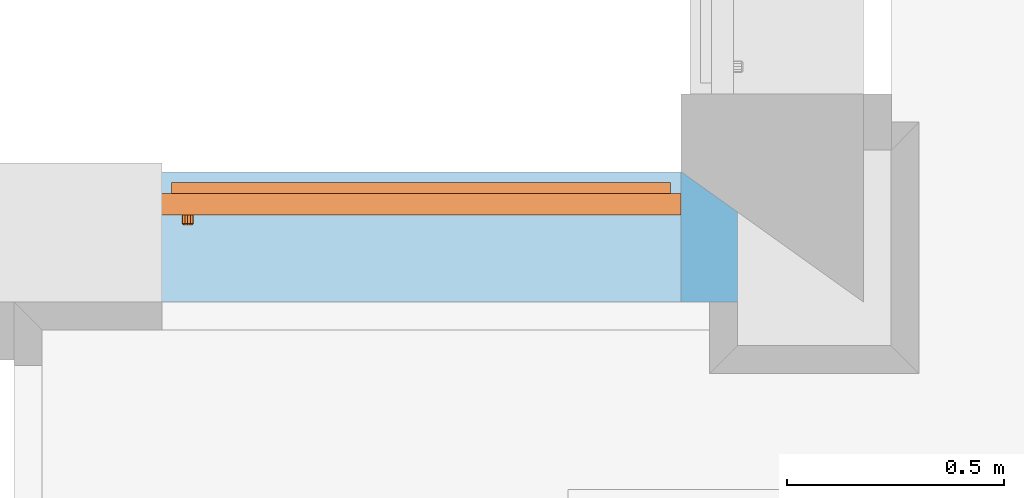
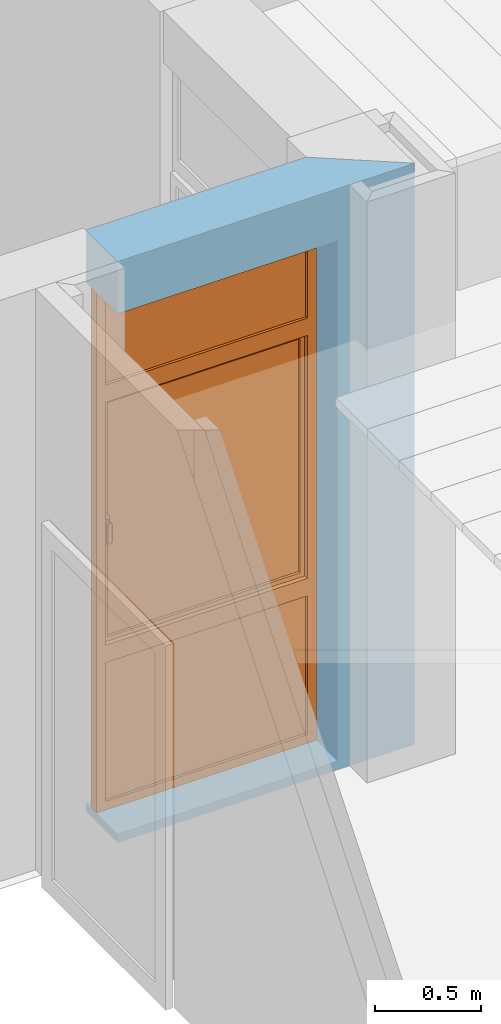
# One storey, part 47 of 60: 1 proxy, 1 opening, plus 1 element that does not belong to this part.
"""IFC2X3 building model written with IfcOpenShell, lengths in millimetres."""

from ifc_helpers import new_model, entity, si_unit, converted_unit, derived_unit, money_unit, direction, frame, origin_with_axes, origin_2d_with_axis, place, context, subcontext, project, spatial, polyline, rectangle, outline, extrude, open_shell, faceted_brep, surface_model, material, layer, layer_set, layer_usage, type_object, element, fill, save


model = new_model("IFC2X3")

# Units and contexts
model_context = context("Model", 3, precision=0.01, world=origin_with_axes(), true_north=direction((0.0, 1.0)))
body_context = subcontext(model_context, "Body", "Model", "MODEL_VIEW")
ifc_project = project(units=[si_unit("LENGTHUNIT", "METRE", prefix="MILLI"), si_unit("AREAUNIT", "SQUARE_METRE"), si_unit("VOLUMEUNIT", "CUBIC_METRE"), converted_unit("PLANEANGLEUNIT", "DEGREE", entity("IfcPlaneAngleMeasure", 0.0174532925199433), si_unit("PLANEANGLEUNIT", "RADIAN"), dimensions=[0, 0, 0, 0, 0, 0, 0]), money_unit("USD"), converted_unit("TIMEUNIT", "Year", entity("IfcTimeMeasure", 31557600.0), si_unit("TIMEUNIT", "SECOND"), dimensions=[0, 0, 1, 0, 0, 0, 0]), si_unit("MASSUNIT", "GRAM", prefix="KILO"), si_unit("THERMODYNAMICTEMPERATUREUNIT", "DEGREE_CELSIUS"), si_unit("LUMINOUSINTENSITYUNIT", "LUMEN"), si_unit("ENERGYUNIT", "JOULE", prefix="MEGA"), derived_unit("THERMALCONDUCTANCEUNIT", [(si_unit("POWERUNIT", "WATT"), 1), (si_unit("LENGTHUNIT", "METRE"), -1), (si_unit("THERMODYNAMICTEMPERATUREUNIT", "KELVIN"), -1)]), derived_unit("SPECIFICHEATCAPACITYUNIT", [(si_unit("ENERGYUNIT", "JOULE"), 1), (si_unit("MASSUNIT", "GRAM", prefix="KILO"), -1), (si_unit("THERMODYNAMICTEMPERATUREUNIT", "KELVIN"), -1)]), derived_unit("MASSDENSITYUNIT", [(si_unit("MASSUNIT", "GRAM", prefix="KILO"), 1), (si_unit("VOLUMEUNIT", "CUBIC_METRE"), -1)])], contexts=[model_context])

# Site, building, storey
site_placement = place(None, origin_with_axes())
site = spatial("IfcSite", under=ifc_project, at=site_placement, Name="Sitio", CompositionType="ELEMENT")
building_placement = place(site_placement, origin_with_axes())
building = spatial("IfcBuilding", under=site, at=building_placement, Name="Construcción", CompositionType="ELEMENT")
storey_placement = place(building_placement, frame((0.0, 0.0, 3650.0), z_axis=(0.0, 0.0, 1.0), x_axis=(1.0, 0.0, 0.0)))
storey = spatial("IfcBuildingStorey", under=building, at=storey_placement, Name="PLANTA 2ª", CompositionType="ELEMENT", Elevation=3650.0)

# Wall, opening, proxy
ifc_material_1 = material(Name="ARQ_AM246_Arrebossat_De_Guix")
ifc_layer_1 = layer(ifc_material_1, 20.0, ventilated="UNKNOWN")
ifc_material_2 = material(Name="ARQ_CE217_Gero")
ifc_layer_2 = layer(ifc_material_2, 110.0, ventilated="UNKNOWN")
ifc_material_3 = material(Name="ARQ_AI031_Aillament_Poliestireno expandido EPS")
ifc_layer_3 = layer(ifc_material_3, 100.0, ventilated="UNKNOWN")
ifc_material_4 = material(Name="ARQ_CE218_Ceramic")
ifc_layer_4 = layer(ifc_material_4, 50.0, ventilated="UNKNOWN")
ifc_layer_5 = layer(ifc_material_1, 20.0, ventilated="UNKNOWN")
ifc_layer_set = layer_set([ifc_layer_1, ifc_layer_2, ifc_layer_3, ifc_layer_4, ifc_layer_5], Name="façana pati CR3 (ampit)")
ifc_layer_usage = layer_usage(ifc_layer_set, "AXIS2", "POSITIVE", -300.0000000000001)
wall_type = type_object("IfcWallType", Name="façana pati CR3 (ampit) 300", PredefinedType="NOTDEFINED")
wall_placement = place(storey_placement, frame((-1681.109004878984, -12338.97582371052, 0.0), z_axis=(0.0, 0.0, 1.0), x_axis=(-1.0, 0.0, 0.0)))
wall = element("IfcWallStandardCase", 1, at=wall_placement, inside=storey, type_object=wall_type, material=ifc_layer_usage, Name="MS-201", context=body_context, shape_type="SweptSolid", body=[
    extrude(outline(polyline([(419.9999999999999, -300.0000000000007), (1620.000000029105, -300.0000000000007), (1620.000000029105, 0.0), (0.0, 0.0), (419.9999999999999, -300.0000000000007)])), origin_with_axes(), (0.0, 0.0, 1.0), 3350.0),
])
opening_placement = place(wall_placement, frame((1020.000000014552, 0.0, 49.99999999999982), z_axis=(0.0, 0.0, 1.0), x_axis=(1.0, 0.0, 0.0)))
opening = element("IfcOpeningElement", 2, at=opening_placement, cuts=wall, Name="F01", context=body_context, shape_type="SweptSolid", body=[
    extrude(rectangle(XDim=1200.000000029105, YDim=3000.0, at=origin_2d_with_axis()), frame((0.0, -250.0, 1500.0), z_axis=(0.0, -1.0, 0.0), x_axis=(-1.0, 0.0, 0.0)), (0.0, 0.0, -1.0), 550.0),
    extrude(rectangle(XDim=1200.000000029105, YDim=3000.0, at=origin_2d_with_axis()), frame((0.0, -250.0, 1500.0), z_axis=(0.0, 1.0, 0.0), x_axis=(-1.0, 0.0, 0.0)), (0.0, 0.0, -1.0), 350.0000000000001),
])
building_element_proxy_type = type_object("IfcBuildingElementProxyType", Name="Ventana Vertical Multi-Faja 27", PredefinedType="NOTDEFINED")
proxy_placement = place(opening_placement, frame((600.0000000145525, 0.0, 0.0), z_axis=(0.0, 0.0, 1.0), x_axis=(-1.0, 0.0, 0.0)))
proxy = element("IfcBuildingElementProxy", 3, at=proxy_placement, inside=storey, type_object=building_element_proxy_type, Name="F01", context=body_context, shape_type="SurfaceModel", body=[
    faceted_brep([(25.00000000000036, 250.0, 925.0000000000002), (50.00000000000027, 250.0, 925.0000000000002), (50.00000000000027, 250.0, 850.0000000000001), (50.00000000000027, 250.0, 50.00000000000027), (0.0, 250.0, 50.00000000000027), (0.0, 250.0, 2950.0), (50.00000000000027, 250.0, 2950.0), (50.00000000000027, 250.0, 2450.0), (50.00000000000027, 250.0, 2375.0), (25.00000000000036, 250.0, 2375.0), (25.00000000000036, 224.9999999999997, 925.0000000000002), (50.00000000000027, 224.9999999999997, 925.0000000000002), (50.00000000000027, 224.9999999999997, 949.9999999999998), (50.00000000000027, 199.9999999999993, 949.9999999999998), (50.00000000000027, 199.9999999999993, 850.0000000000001), (50.00000000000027, 199.9999999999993, 50.00000000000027), (0.0, 199.9999999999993, 50.00000000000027), (0.0, 199.9999999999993, 2950.0), (50.00000000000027, 199.9999999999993, 2950.0), (50.00000000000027, 199.9999999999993, 2450.0), (49.99999999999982, 224.9999999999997, 2375.0), (50.00000000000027, 199.9999999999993, 2350.0), (50.00000000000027, 224.9999999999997, 2350.0), (25.00000000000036, 224.9999999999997, 2375.0)], [[[0, 1, 2, 3, 4, 5, 6, 7, 8, 9]], [[0, 10, 11, 1]], [[11, 12, 13, 14, 2, 1]], [[3, 2, 14, 15]], [[4, 3, 15, 16]], [[5, 4, 16, 17]], [[6, 5, 17, 18]], [[7, 6, 18, 19]], [[20, 8, 7, 19, 21, 22]], [[20, 23, 9, 8]], [[9, 23, 10, 0]], [[22, 12, 11, 10, 23, 20]], [[22, 21, 13, 12]], [[17, 16, 15, 14, 13, 21, 19, 18]]]),
    faceted_brep([(1175.000000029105, 250.0, 925.0000000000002), (1175.000000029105, 250.0, 2375.0), (1150.000000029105, 250.0, 2375.0), (1150.000000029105, 250.0, 2450.0), (1150.000000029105, 250.0, 2950.0), (1200.000000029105, 250.0, 2950.0), (1200.000000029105, 250.0, 50.00000000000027), (1150.000000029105, 250.0, 50.00000000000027), (1150.000000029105, 250.0, 850.0000000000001), (1150.000000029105, 250.0, 925.0000000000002), (1175.000000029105, 224.9999999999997, 925.0000000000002), (1175.000000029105, 224.9999999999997, 2375.0), (1150.000000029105, 224.9999999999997, 2375.0), (1150.000000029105, 224.9999999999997, 2350.0), (1150.000000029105, 199.9999999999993, 2350.0), (1150.000000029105, 199.9999999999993, 2450.0), (1150.000000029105, 199.9999999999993, 2950.0), (1200.000000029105, 199.9999999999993, 2950.0), (1200.000000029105, 199.9999999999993, 50.00000000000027), (1150.000000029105, 199.9999999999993, 50.00000000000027), (1150.000000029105, 199.9999999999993, 850.0000000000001), (1150.000000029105, 224.9999999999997, 925.0000000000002), (1150.000000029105, 199.9999999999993, 949.9999999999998), (1150.000000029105, 224.9999999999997, 949.9999999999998)], [[[0, 1, 2, 3, 4, 5, 6, 7, 8, 9]], [[0, 10, 11, 1]], [[1, 11, 12, 2]], [[12, 13, 14, 15, 3, 2]], [[4, 3, 15, 16]], [[5, 4, 16, 17]], [[6, 5, 17, 18]], [[7, 6, 18, 19]], [[8, 7, 19, 20]], [[21, 9, 8, 20, 22, 23]], [[9, 21, 10, 0]], [[12, 11, 10, 21, 23, 13]], [[23, 22, 14, 13]], [[14, 22, 20, 19, 18, 17, 16, 15]]]),
    faceted_brep([(50.00000000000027, 224.9999999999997, 949.9999999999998), (50.00000000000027, 199.9999999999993, 949.9999999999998), (1150.000000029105, 199.9999999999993, 949.9999999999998), (1150.000000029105, 224.9999999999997, 949.9999999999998), (50.00000000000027, 224.9999999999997, 925.0000000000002), (50.00000000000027, 250.0, 925.0000000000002), (50.00000000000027, 250.0, 850.0000000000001), (50.00000000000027, 199.9999999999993, 850.0000000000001), (1150.000000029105, 199.9999999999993, 850.0000000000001), (1150.000000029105, 224.9999999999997, 925.0000000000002), (1150.000000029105, 250.0, 850.0000000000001), (1150.000000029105, 250.0, 925.0000000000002)], [[[0, 1, 2, 3]], [[4, 5, 6, 7, 1, 0]], [[1, 7, 8, 2]], [[9, 3, 2, 8, 10, 11]], [[9, 4, 0, 3]], [[5, 4, 9, 11]], [[11, 10, 6, 5]], [[6, 10, 8, 7]]]),
    faceted_brep([(50.00000000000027, 250.0, 2375.0), (50.00000000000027, 250.0, 2450.0), (1150.000000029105, 250.0, 2450.0), (1150.000000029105, 250.0, 2375.0), (49.99999999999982, 224.9999999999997, 2375.0), (50.00000000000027, 224.9999999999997, 2350.0), (50.00000000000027, 199.9999999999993, 2350.0), (50.00000000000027, 199.9999999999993, 2450.0), (1150.000000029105, 199.9999999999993, 2450.0), (1150.000000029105, 224.9999999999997, 2375.0), (1150.000000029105, 199.9999999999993, 2350.0), (1150.000000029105, 224.9999999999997, 2350.0)], [[[0, 1, 2, 3]], [[4, 5, 6, 7, 1, 0]], [[2, 1, 7, 8]], [[9, 3, 2, 8, 10, 11]], [[9, 4, 0, 3]], [[11, 5, 4, 9]], [[11, 10, 6, 5]], [[7, 6, 10, 8]]]),
    faceted_brep([(1150.000000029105, 199.9999999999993, 2950.0), (1150.000000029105, 250.0, 2950.0), (1200.000000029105, 250.0, 2950.0), (1200.000000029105, 199.9999999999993, 2950.0), (50.00000000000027, 199.9999999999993, 2950.0), (50.00000000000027, 250.0, 2950.0), (0.0, 250.0, 2950.0), (0.0, 250.0, 3000.0), (1200.000000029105, 250.0, 3000.0), (1200.000000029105, 199.9999999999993, 3000.0), (0.0, 199.9999999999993, 3000.0), (0.0, 199.9999999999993, 2950.0)], [[[0, 1, 2, 3]], [[4, 5, 1, 0]], [[1, 5, 6, 7, 8, 2]], [[3, 2, 8, 9]], [[0, 3, 9, 10, 11, 4]], [[11, 6, 5, 4]], [[10, 7, 6, 11]], [[9, 8, 7, 10]]]),
    faceted_brep([(50.00000000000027, 199.9999999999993, 49.99999999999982), (50.00000000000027, 250.0, 49.99999999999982), (0.0, 250.0, 49.99999999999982), (0.0, 199.9999999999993, 49.99999999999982), (1150.000000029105, 199.9999999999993, 49.99999999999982), (1150.000000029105, 250.0, 49.99999999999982), (1200.000000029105, 250.0, 49.99999999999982), (1200.000000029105, 250.0, 0.0), (0.0, 250.0, 0.0), (0.0, 199.9999999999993, 0.0), (1200.000000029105, 199.9999999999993, 0.0), (1200.000000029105, 199.9999999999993, 49.99999999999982)], [[[0, 1, 2, 3]], [[4, 5, 1, 0]], [[1, 5, 6, 7, 8, 2]], [[3, 2, 8, 9]], [[0, 3, 9, 10, 11, 4]], [[11, 6, 5, 4]], [[10, 7, 6, 11]], [[9, 8, 7, 10]]]),
    surface_model("IfcShellBasedSurfaceModel", [(50.00000000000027, 214.9999999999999, 49.99999999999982), (1150.000000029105, 214.9999999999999, 49.99999999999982), (1150.000000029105, 214.9999999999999, 850.0000000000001), (50.00000000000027, 214.9999999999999, 850.0000000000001)], [open_shell([[[0, 1, 2, 3]]])]),
    surface_model("IfcShellBasedSurfaceModel", [(50.00000000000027, 234.9999999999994, 49.99999999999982), (50.00000000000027, 234.9999999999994, 850.0000000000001), (1150.000000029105, 234.9999999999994, 850.0000000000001), (1150.000000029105, 234.9999999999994, 49.99999999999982)], [open_shell([[[0, 1, 2, 3]]])]),
    faceted_brep([(78.50000000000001, 224.9999999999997, 1677.0), (77.16025403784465, 224.9999999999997, 1682.0), (77.16025403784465, 212.9999999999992, 1682.0), (78.50000000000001, 212.9999999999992, 1677.0), (78.50000000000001, 224.9999999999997, 1623.0), (77.16025403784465, 224.9999999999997, 1618.0), (73.50000000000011, 224.9999999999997, 1614.339745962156), (68.50000000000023, 224.9999999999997, 1613.0), (56.50000000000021, 224.9999999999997, 1613.0), (51.49999999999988, 224.9999999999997, 1614.339745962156), (47.83974596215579, 224.9999999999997, 1618.0), (46.49999999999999, 224.9999999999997, 1623.0), (46.49999999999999, 224.9999999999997, 1677.0), (47.83974596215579, 224.9999999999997, 1682.0), (51.49999999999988, 224.9999999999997, 1685.660254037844), (56.50000000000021, 224.9999999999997, 1687.0), (68.50000000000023, 224.9999999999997, 1687.0), (73.50000000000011, 224.9999999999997, 1685.660254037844), (73.50000000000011, 212.9999999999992, 1685.660254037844), (68.50000000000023, 212.9999999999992, 1687.0), (56.50000000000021, 212.9999999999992, 1687.0), (51.49999999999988, 212.9999999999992, 1685.660254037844), (47.83974596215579, 212.9999999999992, 1682.0), (46.49999999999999, 212.9999999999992, 1677.0), (46.49999999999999, 212.9999999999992, 1623.0), (47.83974596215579, 212.9999999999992, 1618.0), (51.49999999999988, 212.9999999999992, 1614.339745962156), (56.50000000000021, 212.9999999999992, 1613.0), (68.50000000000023, 212.9999999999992, 1613.0), (73.50000000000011, 212.9999999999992, 1614.339745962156), (77.16025403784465, 212.9999999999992, 1618.0), (78.50000000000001, 212.9999999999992, 1623.0)], [[[0, 1, 2, 3]], [[0, 4, 5, 6, 7, 8, 9, 10, 11, 12, 13, 14, 15, 16, 17, 1]], [[1, 17, 18, 2]], [[3, 2, 18, 19, 20, 21, 22, 23, 24, 25, 26, 27, 28, 29, 30, 31]], [[4, 0, 3, 31]], [[5, 4, 31, 30]], [[6, 5, 30, 29]], [[7, 6, 29, 28]], [[8, 7, 28, 27]], [[9, 8, 27, 26]], [[10, 9, 26, 25]], [[11, 10, 25, 24]], [[12, 11, 24, 23]], [[13, 12, 23, 22]], [[14, 13, 22, 21]], [[15, 14, 21, 20]], [[16, 15, 20, 19]], [[17, 16, 19, 18]]]),
    faceted_brep([(62.5, 212.9999999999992, 1663.5), (55.75000000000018, 212.9999999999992, 1661.69134295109), (55.75000000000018, 189.0000000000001, 1661.69134295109), (62.5, 189.0000000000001, 1663.5), (69.25000000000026, 212.9999999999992, 1661.69134295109), (74.19134295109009, 212.9999999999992, 1656.75), (76.00000000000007, 212.9999999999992, 1650.0), (74.19134295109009, 212.9999999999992, 1643.25), (69.25000000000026, 212.9999999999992, 1638.30865704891), (62.5, 212.9999999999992, 1636.499999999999), (55.75000000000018, 212.9999999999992, 1638.30865704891), (50.80865704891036, 212.9999999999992, 1643.25), (49.00000000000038, 212.9999999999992, 1650.0), (50.80865704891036, 212.9999999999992, 1656.75), (50.80865704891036, 189.0000000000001, 1656.75), (49.00000000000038, 189.0000000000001, 1650.0), (50.80865704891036, 189.0000000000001, 1643.25), (55.75000000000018, 189.0000000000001, 1638.30865704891), (62.5, 189.0000000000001, 1636.499999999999), (69.25000000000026, 189.0000000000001, 1638.30865704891), (74.19134295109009, 189.0000000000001, 1643.25), (76.00000000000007, 189.0000000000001, 1650.0), (74.19134295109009, 189.0000000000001, 1656.75), (69.25000000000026, 189.0000000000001, 1661.69134295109)], [[[0, 1, 2, 3]], [[0, 4, 5, 6, 7, 8, 9, 10, 11, 12, 13, 1]], [[1, 13, 14, 2]], [[3, 2, 14, 15, 16, 17, 18, 19, 20, 21, 22, 23]], [[4, 0, 3, 23]], [[5, 4, 23, 22]], [[6, 5, 22, 21]], [[7, 6, 21, 20]], [[8, 7, 20, 19]], [[9, 8, 19, 18]], [[10, 9, 18, 17]], [[11, 10, 17, 16]], [[12, 11, 16, 15]], [[13, 12, 15, 14]]]),
    faceted_brep([(73.99999999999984, 189.0000000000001, 1543.0), (62.5, 189.0000000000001, 1540.0), (51.00000000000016, 189.0000000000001, 1543.0), (49.00000000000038, 189.0000000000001, 1546.0), (49.00000000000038, 189.0000000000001, 1650.0), (50.80865704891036, 189.0000000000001, 1656.75), (55.75000000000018, 189.0000000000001, 1661.69134295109), (62.5, 189.0000000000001, 1663.5), (69.25000000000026, 189.0000000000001, 1661.69134295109), (74.19134295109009, 189.0000000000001, 1656.75), (76.00000000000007, 189.0000000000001, 1650.0), (76.00000000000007, 189.0000000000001, 1546.0), (74.00000006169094, 180.9999999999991, 1543.000000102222), (62.5000000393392, 180.9999999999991, 1539.999999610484), (51.00000001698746, 180.9999999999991, 1543.000000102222), (48.99999968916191, 180.9999999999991, 1545.999999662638), (48.99999968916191, 180.9999999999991, 1649.99999994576), (50.80865700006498, 180.9999999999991, 1656.749999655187), (55.75000032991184, 180.9999999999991, 1661.691342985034), (62.5000000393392, 180.9999999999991, 1663.500000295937), (69.24999974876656, 180.9999999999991, 1661.691342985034), (74.19134307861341, 180.9999999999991, 1656.749999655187), (76.00000038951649, 180.9999999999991, 1649.99999994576), (76.00000038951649, 180.9999999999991, 1545.999999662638), (72.13746253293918, 178.0000004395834, 1545.61451963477), (62.5000000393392, 178.0000004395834, 1543.100398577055), (52.86253754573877, 178.0000004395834, 1545.61451963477), (51.99999924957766, 178.0000004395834, 1546.908326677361), (51.99999924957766, 178.0000004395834, 1649.605042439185), (53.49838296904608, 178.0000004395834, 1655.197085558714), (57.3029144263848, 178.0000004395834, 1659.001617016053), (62.5000000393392, 178.0000004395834, 1660.394172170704), (67.6970856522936, 178.0000004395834, 1659.001617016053), (71.50161710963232, 178.0000004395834, 1655.197085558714), (73.00000082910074, 178.0000004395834, 1649.605042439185), (73.00000082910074, 178.0000004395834, 1546.908326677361)], [[[0, 1, 2, 3, 4, 5, 6, 7, 8, 9, 10, 11]], [[1, 0, 12, 13]], [[2, 1, 13, 14]], [[3, 2, 14, 15]], [[4, 3, 15, 16]], [[5, 4, 16, 17]], [[6, 5, 17, 18]], [[7, 6, 18, 19]], [[8, 7, 19, 20]], [[9, 8, 20, 21]], [[10, 9, 21, 22]], [[11, 10, 22, 23]], [[0, 11, 23, 12]], [[13, 12, 24, 25]], [[14, 13, 25, 26]], [[15, 14, 26, 27]], [[16, 15, 27, 28]], [[17, 16, 28, 29]], [[18, 17, 29, 30]], [[19, 18, 30, 31]], [[20, 19, 31, 32]], [[21, 20, 32, 33]], [[22, 21, 33, 34]], [[23, 22, 34, 35]], [[12, 23, 35, 24]], [[26, 25, 24, 35, 34, 33, 32, 31, 30, 29, 28, 27]]]),
    faceted_brep([(75.00000000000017, 224.9999999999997, 2325.0), (75.00000000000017, 275.0000000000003, 2325.0), (25.00000000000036, 275.0000000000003, 2325.0), (25.00000000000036, 224.9999999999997, 2325.0), (75.00000000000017, 224.9999999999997, 975.0000000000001), (75.00000000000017, 275.0000000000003, 975.0000000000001), (25.00000000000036, 275.0000000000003, 975.0000000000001), (25.00000000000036, 224.9999999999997, 975.0000000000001)], [[[0, 1, 2, 3]], [[4, 5, 1, 0]], [[1, 5, 6, 2]], [[3, 2, 6, 7]], [[0, 3, 7, 4]], [[7, 6, 5, 4]]]),
    faceted_brep([(1125.000000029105, 224.9999999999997, 975.0000000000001), (1125.000000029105, 275.0000000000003, 975.0000000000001), (1175.000000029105, 275.0000000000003, 975.0000000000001), (1175.000000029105, 224.9999999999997, 975.0000000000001), (1125.000000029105, 224.9999999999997, 2325.0), (1125.000000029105, 274.9999999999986, 2325.0), (1175.000000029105, 274.9999999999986, 2325.0), (1175.000000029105, 224.9999999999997, 2325.0)], [[[0, 1, 2, 3]], [[4, 5, 1, 0]], [[1, 5, 6, 2]], [[3, 2, 6, 7]], [[0, 3, 7, 4]], [[7, 6, 5, 4]]]),
    faceted_brep([(1175.000000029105, 224.9999999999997, 925.0000000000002), (1175.000000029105, 275.0000000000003, 925.0000000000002), (1175.000000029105, 275.0000000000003, 975.0000000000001), (1175.000000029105, 224.9999999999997, 975.0000000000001), (25.00000000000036, 224.9999999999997, 925.0000000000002), (25.00000000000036, 275.0000000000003, 925.0000000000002), (25.00000000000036, 275.0000000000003, 975.0000000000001), (75.00000000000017, 275.0000000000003, 975.0000000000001), (1125.000000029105, 275.0000000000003, 975.0000000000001), (1125.000000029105, 224.9999999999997, 975.0000000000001), (75.00000000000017, 224.9999999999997, 975.0000000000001), (25.00000000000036, 224.9999999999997, 975.0000000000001)], [[[0, 1, 2, 3]], [[4, 5, 1, 0]], [[1, 5, 6, 7, 8, 2]], [[3, 2, 8, 9]], [[0, 3, 9, 10, 11, 4]], [[11, 6, 5, 4]], [[10, 7, 6, 11]], [[9, 8, 7, 10]]]),
    faceted_brep([(25.00000000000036, 224.9999999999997, 2375.0), (25.00000000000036, 275.0000000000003, 2375.0), (25.00000000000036, 275.0000000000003, 2325.0), (25.00000000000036, 224.9999999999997, 2325.0), (1175.000000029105, 224.9999999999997, 2375.0), (1175.000000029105, 274.9999999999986, 2375.0), (1175.000000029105, 274.9999999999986, 2325.0), (1125.000000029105, 274.9999999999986, 2325.0), (75.00000000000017, 275.0000000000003, 2325.0), (75.00000000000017, 224.9999999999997, 2325.0), (1125.000000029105, 224.9999999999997, 2325.0), (1175.000000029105, 224.9999999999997, 2325.0)], [[[0, 1, 2, 3]], [[4, 5, 1, 0]], [[1, 5, 6, 7, 8, 2]], [[3, 2, 8, 9]], [[0, 3, 9, 10, 11, 4]], [[11, 6, 5, 4]], [[10, 7, 6, 11]], [[9, 8, 7, 10]]]),
    surface_model("IfcShellBasedSurfaceModel", [(75.00000000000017, 240.0000000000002, 975.0000000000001), (1125.000000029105, 240.0000000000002, 975.0000000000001), (1125.000000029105, 240.0000000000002, 2325.0), (75.00000000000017, 240.0000000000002, 2325.0)], [open_shell([[[0, 1, 2, 3]]])]),
    surface_model("IfcShellBasedSurfaceModel", [(75.00000000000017, 259.9999999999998, 975.0000000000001), (75.00000000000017, 259.9999999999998, 2325.0), (1125.000000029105, 259.9999999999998, 2325.0), (1125.000000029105, 259.9999999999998, 975.0000000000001)], [open_shell([[[0, 1, 2, 3]]])]),
    surface_model("IfcShellBasedSurfaceModel", [(50.00000000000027, 214.9999999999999, 2450.0), (1150.000000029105, 214.9999999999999, 2450.0), (1150.000000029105, 214.9999999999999, 2950.0), (50.00000000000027, 214.9999999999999, 2950.0)], [open_shell([[[0, 1, 2, 3]]])]),
    surface_model("IfcShellBasedSurfaceModel", [(50.00000000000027, 234.9999999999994, 2450.0), (50.00000000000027, 234.9999999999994, 2950.0), (1150.000000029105, 234.9999999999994, 2950.0), (1150.000000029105, 234.9999999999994, 2450.0)], [open_shell([[[0, 1, 2, 3]]])]),
])
fill(opening, proxy)

save(model, "model.ifc")
